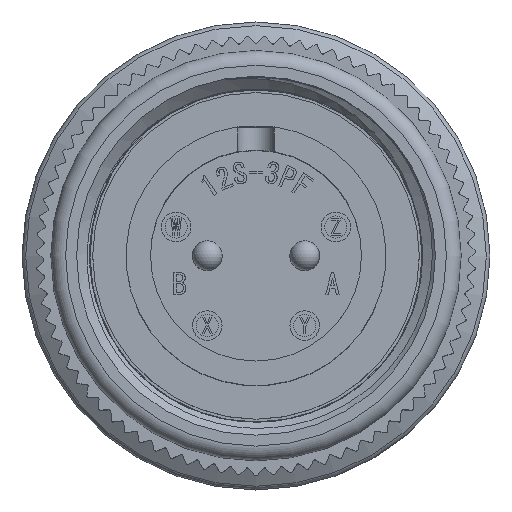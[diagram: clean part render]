
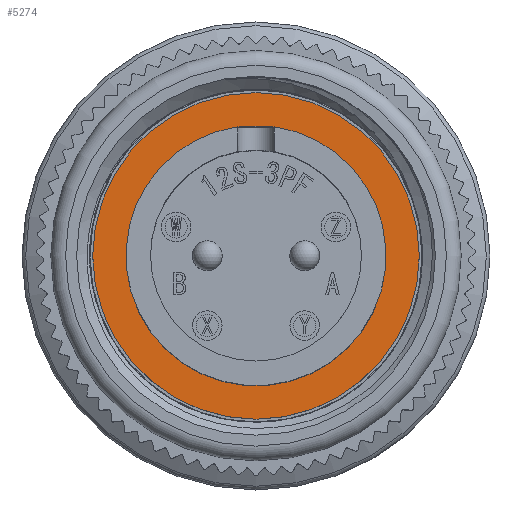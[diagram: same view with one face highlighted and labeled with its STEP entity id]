
A CAD part, top view. The second image highlights one B-rep face of the part: STEP entity #5274.
In plain terms, the highlighted planar face has unit normal (0, 0, 1).
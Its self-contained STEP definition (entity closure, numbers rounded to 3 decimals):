
#3294 = DIRECTION ( 'NONE',  ( -1., 0., 0. ) ) ;
#5274 = ADVANCED_FACE ( 'NONE', ( #22777, #18144 ), #33222, .F. ) ;
#5839 = DIRECTION ( 'NONE',  ( 1., 0., 0. ) ) ;
#6131 = EDGE_CURVE ( 'NONE', #17190, #17190, #8253, .T. ) ;
#6907 = AXIS2_PLACEMENT_3D ( 'NONE', #35491, #17615, #38475 ) ;
#7854 = VERTEX_POINT ( 'NONE', #28556 ) ;
#8219 = AXIS2_PLACEMENT_3D ( 'NONE', #23735, #38736, #5839 ) ;
#8253 = CIRCLE ( 'NONE', #6907, 8.845 ) ;
#9634 = DIRECTION ( 'NONE',  ( 1., 0., 0. ) ) ;
#14044 = CARTESIAN_POINT ( 'NONE',  ( 8.845, 0., -11.89 ) ) ;
#14093 = EDGE_LOOP ( 'NONE', ( #33065 ) ) ;
#15554 = ORIENTED_EDGE ( 'NONE', *, *, #35978, .F. ) ;
#16972 = CIRCLE ( 'NONE', #8219, 7.045 ) ;
#17190 = VERTEX_POINT ( 'NONE', #14044 ) ;
#17615 = DIRECTION ( 'NONE',  ( 0., 0., 1. ) ) ;
#18144 = FACE_OUTER_BOUND ( 'NONE', #14093, .T. ) ;
#21177 = CARTESIAN_POINT ( 'NONE',  ( 0., 8.845, -11.89 ) ) ;
#21634 = DIRECTION ( 'NONE',  ( 0., 0., 1. ) ) ;
#21660 = AXIS2_PLACEMENT_3D ( 'NONE', #21177, #32823, #3294 ) ;
#22076 = EDGE_CURVE ( 'NONE', #7854, #24793, #16972, .T. ) ;
#22777 = FACE_BOUND ( 'NONE', #32616, .T. ) ;
#23485 = AXIS2_PLACEMENT_3D ( 'NONE', #33400, #21634, #9634 ) ;
#23735 = CARTESIAN_POINT ( 'NONE',  ( 0., 0., -11.89 ) ) ;
#24214 = ORIENTED_EDGE ( 'NONE', *, *, #22076, .F. ) ;
#24793 = VERTEX_POINT ( 'NONE', #35810 ) ;
#28556 = CARTESIAN_POINT ( 'NONE',  ( -1., 6.974, -11.89 ) ) ;
#30644 = CIRCLE ( 'NONE', #23485, 7.045 ) ;
#32616 = EDGE_LOOP ( 'NONE', ( #15554, #24214 ) ) ;
#32823 = DIRECTION ( 'NONE',  ( 0., 0., -1. ) ) ;
#33065 = ORIENTED_EDGE ( 'NONE', *, *, #6131, .T. ) ;
#33222 = PLANE ( 'NONE',  #21660 ) ;
#33400 = CARTESIAN_POINT ( 'NONE',  ( 0., 0., -11.89 ) ) ;
#35491 = CARTESIAN_POINT ( 'NONE',  ( 0., 0., -11.89 ) ) ;
#35810 = CARTESIAN_POINT ( 'NONE',  ( 1., 6.974, -11.89 ) ) ;
#35978 = EDGE_CURVE ( 'NONE', #24793, #7854, #30644, .T. ) ;
#38475 = DIRECTION ( 'NONE',  ( 1., 0., 0. ) ) ;
#38736 = DIRECTION ( 'NONE',  ( 0., 0., 1. ) ) ;
